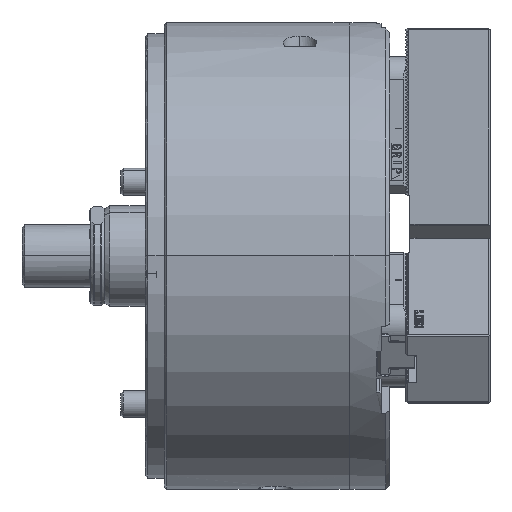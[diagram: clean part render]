
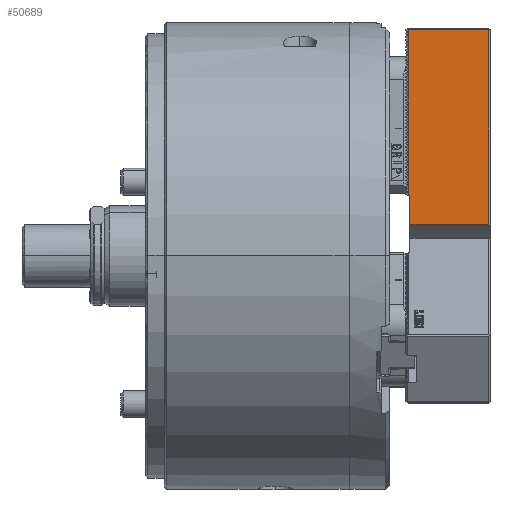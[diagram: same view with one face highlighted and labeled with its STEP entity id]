
A CAD part, top view. The second image highlights one B-rep face of the part: STEP entity #50689.
In plain terms, the highlighted planar face has unit normal (0, 0, 1).
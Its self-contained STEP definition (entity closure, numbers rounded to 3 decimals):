
#336 = LINE ( 'NONE', #134520, #75909 ) ;
#3836 = VECTOR ( 'NONE', #65836, 1000. ) ;
#12811 = VECTOR ( 'NONE', #91241, 1000. ) ;
#14626 = ORIENTED_EDGE ( 'NONE', *, *, #59337, .F. ) ;
#23574 = CARTESIAN_POINT ( 'NONE',  ( 37.4, 0., 17.5 ) ) ;
#27240 = DIRECTION ( 'NONE',  ( 0., 0., -1. ) ) ;
#30394 = CARTESIAN_POINT ( 'NONE',  ( 38., 94.4, 17.5 ) ) ;
#40714 = EDGE_LOOP ( 'NONE', ( #14626, #40845, #134597, #45336, #143392, #126547 ) ) ;
#40845 = ORIENTED_EDGE ( 'NONE', *, *, #51622, .F. ) ;
#44272 = VERTEX_POINT ( 'NONE', #182626 ) ;
#45124 = CARTESIAN_POINT ( 'NONE',  ( 2., 6.986, 17.5 ) ) ;
#45336 = ORIENTED_EDGE ( 'NONE', *, *, #132199, .F. ) ;
#50689 = ADVANCED_FACE ( 'NONE', ( #160287 ), #143662, .F. ) ;
#51622 = EDGE_CURVE ( 'NONE', #208518, #186216, #64069, .T. ) ;
#58047 = VERTEX_POINT ( 'NONE', #180776 ) ;
#59337 = EDGE_CURVE ( 'NONE', #186216, #215965, #110777, .T. ) ;
#64069 = LINE ( 'NONE', #219278, #126131 ) ;
#65836 = DIRECTION ( 'NONE',  ( -1., 0., 0. ) ) ;
#67243 = VECTOR ( 'NONE', #109410, 1000. ) ;
#67401 = EDGE_CURVE ( 'NONE', #145780, #208518, #336, .T. ) ;
#75909 = VECTOR ( 'NONE', #152240, 1000. ) ;
#78250 = DIRECTION ( 'NONE',  ( 0., 1., 0. ) ) ;
#91241 = DIRECTION ( 'NONE',  ( 0., 1., 0. ) ) ;
#94167 = DIRECTION ( 'NONE',  ( 0., 1., 0. ) ) ;
#96440 = CARTESIAN_POINT ( 'NONE',  ( 1.4, 94.4, 17.5 ) ) ;
#100621 = DIRECTION ( 'NONE',  ( -1., 0., 0. ) ) ;
#109410 = DIRECTION ( 'NONE',  ( -1., 0., 0. ) ) ;
#110777 = LINE ( 'NONE', #178368, #113289 ) ;
#112791 = EDGE_CURVE ( 'NONE', #44272, #215965, #146829, .T. ) ;
#113289 = VECTOR ( 'NONE', #94167, 1000. ) ;
#126131 = VECTOR ( 'NONE', #100621, 1000. ) ;
#126547 = ORIENTED_EDGE ( 'NONE', *, *, #112791, .T. ) ;
#132199 = EDGE_CURVE ( 'NONE', #58047, #145780, #210317, .T. ) ;
#134520 = CARTESIAN_POINT ( 'NONE',  ( 2., 20., 17.5 ) ) ;
#134597 = ORIENTED_EDGE ( 'NONE', *, *, #67401, .F. ) ;
#135792 = EDGE_CURVE ( 'NONE', #58047, #44272, #141102, .T. ) ;
#141102 = LINE ( 'NONE', #23574, #12811 ) ;
#143392 = ORIENTED_EDGE ( 'NONE', *, *, #135792, .T. ) ;
#143662 = PLANE ( 'NONE',  #154273 ) ;
#143744 = CARTESIAN_POINT ( 'NONE',  ( 38., 6.986, 17.5 ) ) ;
#145780 = VERTEX_POINT ( 'NONE', #45124 ) ;
#146829 = LINE ( 'NONE', #30394, #3836 ) ;
#152240 = DIRECTION ( 'NONE',  ( 0., 1., 0. ) ) ;
#154273 = AXIS2_PLACEMENT_3D ( 'NONE', #174729, #27240, #78250 ) ;
#157091 = CARTESIAN_POINT ( 'NONE',  ( 1.4, 20., 17.5 ) ) ;
#160287 = FACE_OUTER_BOUND ( 'NONE', #40714, .T. ) ;
#167917 = CARTESIAN_POINT ( 'NONE',  ( 2., 20., 17.5 ) ) ;
#174729 = CARTESIAN_POINT ( 'NONE',  ( 38., 94.4, 17.5 ) ) ;
#178368 = CARTESIAN_POINT ( 'NONE',  ( 1.4, 0., 17.5 ) ) ;
#180776 = CARTESIAN_POINT ( 'NONE',  ( 37.4, 6.986, 17.5 ) ) ;
#182626 = CARTESIAN_POINT ( 'NONE',  ( 37.4, 94.4, 17.5 ) ) ;
#186216 = VERTEX_POINT ( 'NONE', #157091 ) ;
#208518 = VERTEX_POINT ( 'NONE', #167917 ) ;
#210317 = LINE ( 'NONE', #143744, #67243 ) ;
#215965 = VERTEX_POINT ( 'NONE', #96440 ) ;
#219278 = CARTESIAN_POINT ( 'NONE',  ( 0., 20., 17.5 ) ) ;
